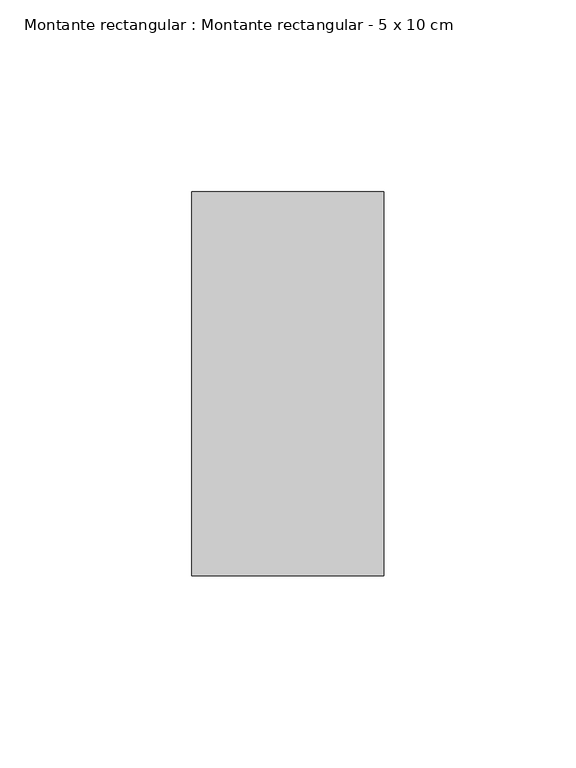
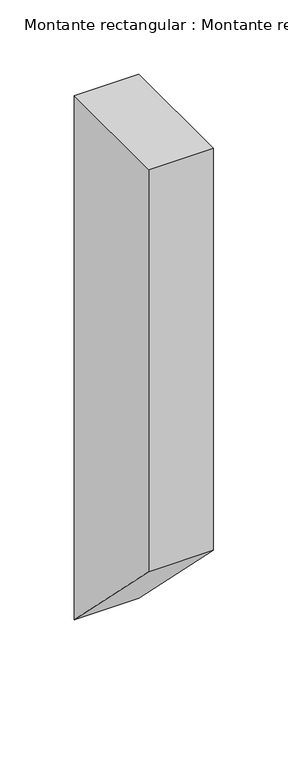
"""IFC4 building model written with IfcOpenShell, lengths in millimetres: member geometry, Montante rectangular : Montante rectangular - 5 x 10 cm."""

from ifc_helpers import new_model, si_unit, frame, origin, place, context, project, spatial, polyline, outline, extrude, source, transform, mapped, element, save


def montante_rectangular_montante_rectangular_5_x_10_cm_bbf3cf20(model_context):
    return source(origin(), model_context, "Body", "SweptSolid", [
        extrude(outline(polyline([(-50.0, 0.0), (50.0, 0.0), (50.0, -430.0), (-50.0, -330.0), (-50.0, 0.0)])), frame((-50.0, 0.0, 0.0), z_axis=(1.0, 0.0, 0.0), x_axis=(0.0, 1.0, 0.0)), (0.0, 0.0, 1.0), 50.0),
    ])


if __name__ == "__main__":
    model = new_model("IFC4")
    model_context = context("Model", 3, world=origin())
    ifc_project = project(units=[si_unit("LENGTHUNIT", "METRE", prefix="MILLI")], contexts=[model_context])
    site = spatial("IfcSite", under=ifc_project)
    building = spatial("IfcBuilding", under=site)
    placement = place(None, origin())
    montante_rectangular_montante_rectangular_5_x_10_cm_shape = montante_rectangular_montante_rectangular_5_x_10_cm_bbf3cf20(model_context)
    element("IfcMember", 1, ObjectType="Montante rectangular : Montante rectangular - 5 x 10 cm", at=placement, inside=building, context=model_context, shape_type="MappedRepresentation", body=[
        mapped(montante_rectangular_montante_rectangular_5_x_10_cm_shape, transform((0.0, 0.0, 0.0), x_axis=(1.0, 0.0, 0.0), y_axis=(0.0, 1.0, 0.0), z_axis=(0.0, 0.0, 1.0))),
    ])
    save(model, "model.ifc")
